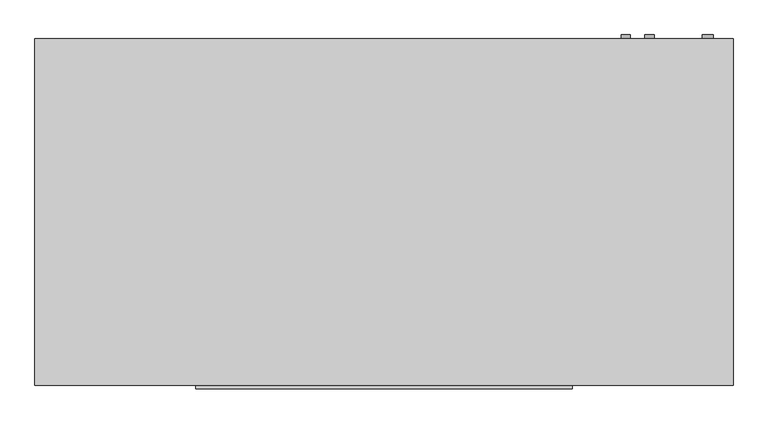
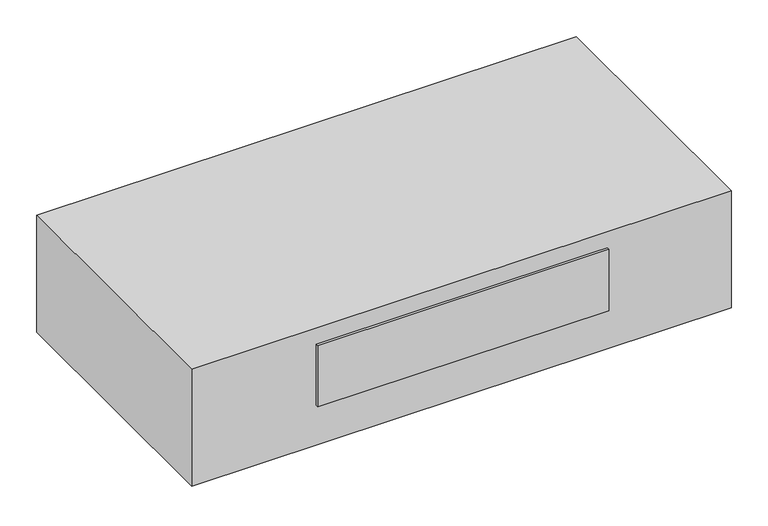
"""IFC4 building model written with IfcOpenShell, lengths in millimetres: proxy geometry, Exposed_Horizontal_Fan_Coil_Unit_-_42CGB_-_CARRIER_-_2-Pipe_Cool-EHeat_FS-BR_RH_2022 : Size 04 - 277v/60Hz/1Ph - 4 Row 3.0kW."""

from ifc_helpers import new_model, si_unit, point, frame, frame_2d, origin, place, context, project, spatial, polyline, circle_curve, trimmed, segment, composite_curve, outline, extrude, source, transform, mapped, element, save


def mechanical_equipment_94f99954(model_context):
    return source(origin(), model_context, "Body", "SweptSolid", [
        extrude(outline(composite_curve([segment(trimmed(circle_curve(frame_2d((-60.325, 574.675)), 7.9375), [point((-60.325, 582.6125))], [point((-60.325, 566.7375))], False, "CARTESIAN"), True, "CONTINUOUS"), segment(trimmed(circle_curve(frame_2d((-60.325, 574.675)), 7.9375), [point((-60.325, 566.7375))], [point((-60.325, 582.6125))], False, "CARTESIAN"), True, "CONTINUOUS")], self_intersect=False)), frame((0.0, 65.0875, 0.0), z_axis=(0.0, 1.0, 0.0), x_axis=(0.0, 0.0, 1.0)), (0.0, 0.0, 1.0), 6.35),
        extrude(outline(composite_curve([segment(trimmed(circle_curve(frame_2d((-95.25, 615.95)), 7.9375), [point((-95.25, 623.8875))], [point((-95.25, 608.0125))], False, "CARTESIAN"), True, "CONTINUOUS"), segment(trimmed(circle_curve(frame_2d((-95.25, 615.95)), 7.9375), [point((-95.25, 608.0125))], [point((-95.25, 623.8875))], False, "CARTESIAN"), True, "CONTINUOUS")], self_intersect=False)), frame((0.0, 65.0875, 0.0), z_axis=(0.0, 1.0, 0.0), x_axis=(0.0, 0.0, 1.0)), (0.0, 0.0, 1.0), 6.35),
        extrude(outline(composite_curve([segment(trimmed(circle_curve(frame_2d((-260.35, 717.55)), 9.525), [point((-260.35, 727.075))], [point((-260.35, 708.025))], False, "CARTESIAN"), True, "CONTINUOUS"), segment(trimmed(circle_curve(frame_2d((-260.35, 717.55)), 9.525), [point((-260.35, 708.025))], [point((-260.35, 727.075))], False, "CARTESIAN"), True, "CONTINUOUS")], self_intersect=False)), frame((0.0, 65.0875, 0.0), z_axis=(0.0, 1.0, 0.0), x_axis=(0.0, 0.0, 1.0)), (0.0, 0.0, 1.0), 6.35),
        extrude(outline(polyline([(-457.2, 65.0875), (762.0, 65.0875), (762.0, -541.3375), (-457.2, -541.3375), (-457.2, 65.0875)])), frame((0.0, 0.0, -279.4), z_axis=(0.0, 0.0, 1.0), x_axis=(1.0, 0.0, 0.0)), (0.0, 0.0, 1.0), 279.4),
        extrude(outline(polyline([(481.0125, -547.6875), (-176.2125, -547.6875), (-176.2125, -541.3375), (481.0125, -541.3375), (481.0125, -547.6875)])), frame((0.0, 0.0, -184.15), z_axis=(0.0, 0.0, 1.0), x_axis=(1.0, 0.0, 0.0)), (0.0, 0.0, 1.0), 146.05),
        extrude(outline(polyline([(565.15, -11.1125), (565.15, -265.1125), (-260.35, -265.1125), (-260.35, -11.1125), (565.15, -11.1125)])), frame((0.0, 0.0, -285.75), z_axis=(0.0, 0.0, 1.0), x_axis=(1.0, 0.0, 0.0)), (0.0, 0.0, 1.0), 6.35),
    ])


if __name__ == "__main__":
    model = new_model("IFC4")
    model_context = context("Model", 3, world=origin())
    ifc_project = project(units=[si_unit("LENGTHUNIT", "METRE", prefix="MILLI")], contexts=[model_context])
    site = spatial("IfcSite", under=ifc_project)
    building = spatial("IfcBuilding", under=site)
    placement = place(None, origin())
    mechanical_equipment_shape = mechanical_equipment_94f99954(model_context)
    element("IfcBuildingElementProxy", 1, Name="Exposed_Horizontal_Fan_Coil_Unit_-_42CGB_-_CARRIER_-_2-Pipe_Cool-EHeat_FS-BR_RH_2022 : Size 04 - 277v/60Hz/1Ph - 4 Row 3.0kW", ObjectType="Exposed_Horizontal_Fan_Coil_Unit_-_42CGB_-_CARRIER_-_2-Pipe_Cool-EHeat_FS-BR_RH_2022 : Size 04 - 277v/60Hz/1Ph - 4 Row 3.0kW", at=placement, inside=building, context=model_context, shape_type="MappedRepresentation", body=[
        mapped(mechanical_equipment_shape, transform((0.0, 0.0, 0.0), x_axis=(1.0, 0.0, 0.0), y_axis=(0.0, 1.0, 0.0), z_axis=(0.0, 0.0, 1.0))),
    ])
    save(model, "model.ifc")
